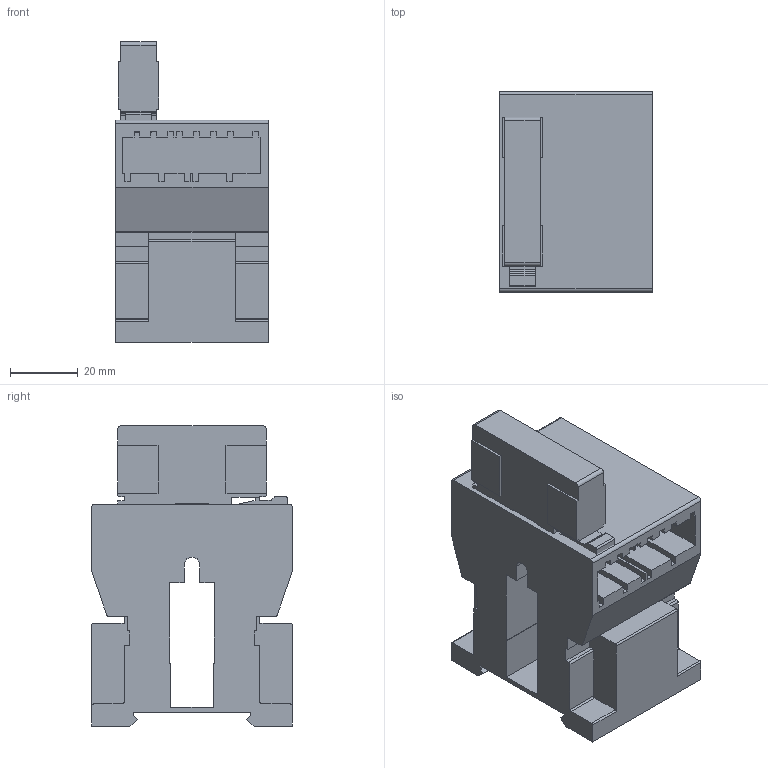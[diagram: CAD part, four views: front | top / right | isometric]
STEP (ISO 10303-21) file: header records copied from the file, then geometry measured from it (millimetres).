
FILE_DESCRIPTION (( 'STEP AP203' ), '1' );
FILE_NAME ('K3-10R+2HN10R.STEP', '2014-03-10T13:47:32', ( '' ), ( '' ), 'SwSTEP 2.0', 'SolidWorks 2014', '' );
FILE_SCHEMA (( 'CONFIG_CONTROL_DESIGN' ));
Length unit declared in the file: millimetre
Products named in the file (3): Imported; Imported_2; K3-10R+2HN10R
Assembly tree (2 placements, depth 2):
  K3-10R+2HN10R
    Imported
    Imported_2
Bounding box: 45 x 59 x 88.3 mm (x, y, z)
Volume: 126665.6 mm3; surface area: 33425.7 mm2
Topology: 2 solids, 2 shells, 316 faces, 924 edges, 616 vertices
Faces by surface type: plane 274, cylinder 41, bspline 1
Entity records: 10645 total; most frequent: CARTESIAN_POINT 1874, ORIENTED_EDGE 1848, DIRECTION 1644, EDGE_CURVE 924, VECTOR 840, LINE 840, VERTEX_POINT 616, AXIS2_PLACEMENT_3D 402
